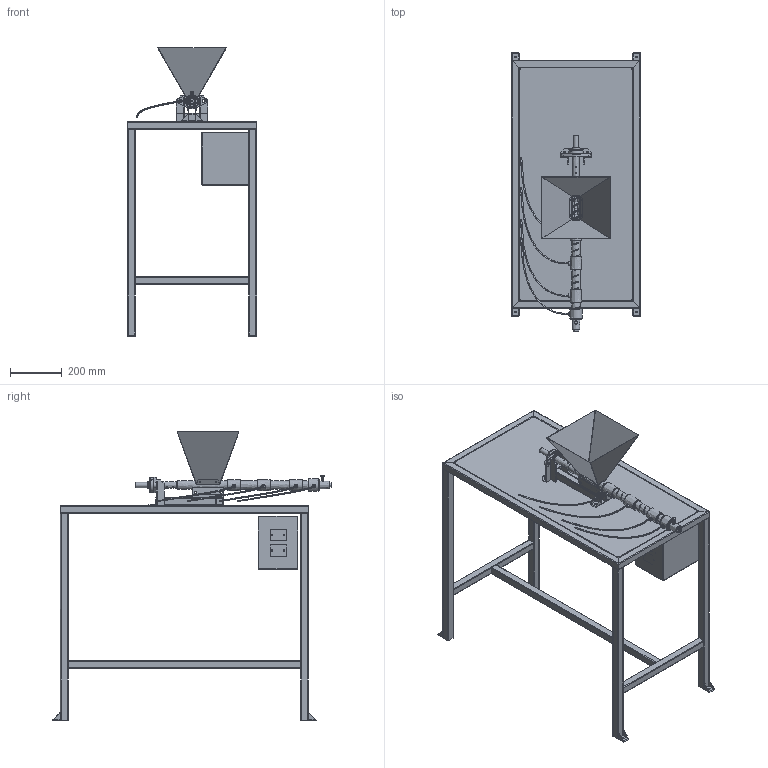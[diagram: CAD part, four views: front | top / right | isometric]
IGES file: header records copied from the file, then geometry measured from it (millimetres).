
Global section: file name: Extrusion V2.0 CAD; native system: unknown; preprocessor: unknown; author: unknown; organization: unknown; date: 20160227.001156; units: millimetre
Bounding box: 500.05 x 1079.5 x 1115.6 mm (x, y, z)
Volume: 16032724.6 mm3; surface area: 2972454.2 mm2
Topology: 67 solids, 69 shells, 920 faces, 2231 edges, 1488 vertices
Faces by surface type: bspline 920
